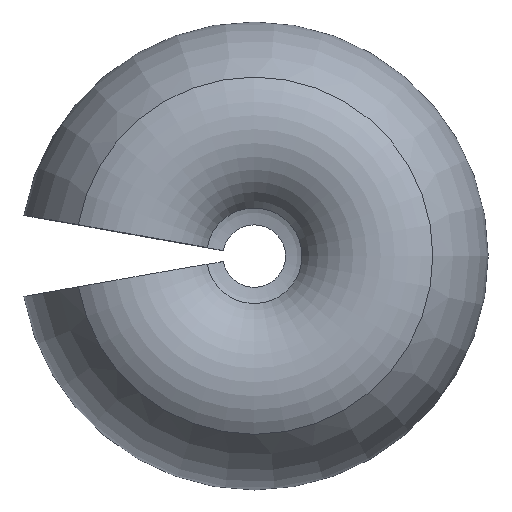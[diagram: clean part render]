
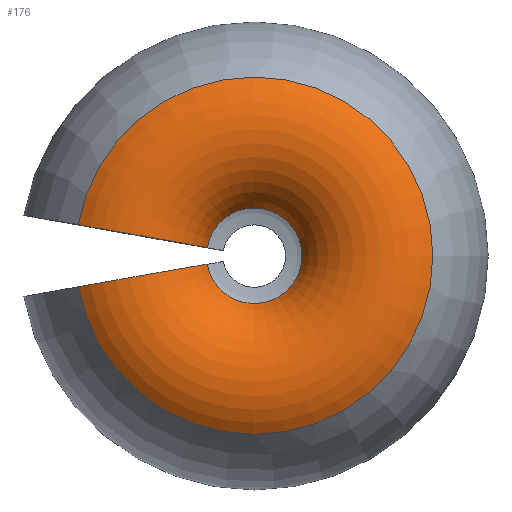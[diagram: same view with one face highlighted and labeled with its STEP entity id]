
A CAD part, top view. The second image highlights one B-rep face of the part: STEP entity #176.
In plain terms, the highlighted toroidal (fillet/blend) face has major radius 1892.75 mm and minor radius 1295 mm.
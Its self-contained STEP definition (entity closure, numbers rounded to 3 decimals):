
#1 = AXIS2_PLACEMENT_3D ( 'NONE', #190, #207, #4 ) ;
#4 = DIRECTION ( 'NONE',  ( -1., 0., 0. ) ) ;
#5 = AXIS2_PLACEMENT_3D ( 'NONE', #64, #231, #105 ) ;
#16 = ORIENTED_EDGE ( 'NONE', *, *, #171, .F. ) ;
#22 = FACE_OUTER_BOUND ( 'NONE', #40, .T. ) ;
#34 = EDGE_CURVE ( 'NONE', #157, #73, #139, .T. ) ;
#37 = VERTEX_POINT ( 'NONE', #212 ) ;
#40 = EDGE_LOOP ( 'NONE', ( #76, #41, #163, #16 ) ) ;
#41 = ORIENTED_EDGE ( 'NONE', *, *, #121, .T. ) ;
#48 = CARTESIAN_POINT ( 'NONE',  ( -2649.165, 467.119, 3088.532 ) ) ;
#49 = DIRECTION ( 'NONE',  ( -1., 0., 0. ) ) ;
#64 = CARTESIAN_POINT ( 'NONE',  ( -1863.996, -328.673, 2068.058 ) ) ;
#65 = CARTESIAN_POINT ( 'NONE',  ( -708.157, -124.867, 2615.347 ) ) ;
#69 = CIRCLE ( 'NONE', #1, 2690.033 ) ;
#73 = VERTEX_POINT ( 'NONE', #65 ) ;
#76 = ORIENTED_EDGE ( 'NONE', *, *, #239, .T. ) ;
#96 = TOROIDAL_SURFACE ( 'NONE', #151, 1892.751, 1295. ) ;
#105 = DIRECTION ( 'NONE',  ( 0., 0., 1. ) ) ;
#121 = EDGE_CURVE ( 'NONE', #37, #73, #187, .T. ) ;
#134 = VERTEX_POINT ( 'NONE', #48 ) ;
#139 = CIRCLE ( 'NONE', #5, 1295. ) ;
#145 = DIRECTION ( 'NONE',  ( 0., 0., -1. ) ) ;
#151 = AXIS2_PLACEMENT_3D ( 'NONE', #209, #145, #49 ) ;
#152 = CARTESIAN_POINT ( 'NONE',  ( -1863.996, 328.673, 2068.058 ) ) ;
#153 = DIRECTION ( 'NONE',  ( 0., 0., 1. ) ) ;
#157 = VERTEX_POINT ( 'NONE', #167 ) ;
#163 = ORIENTED_EDGE ( 'NONE', *, *, #34, .F. ) ;
#165 = DIRECTION ( 'NONE',  ( -1., 0., 0. ) ) ;
#167 = CARTESIAN_POINT ( 'NONE',  ( -2649.165, -467.119, 3088.532 ) ) ;
#171 = EDGE_CURVE ( 'NONE', #134, #157, #69, .T. ) ;
#176 = ADVANCED_FACE ( 'NONE', ( #22 ), #96, .T. ) ;
#187 = CIRCLE ( 'NONE', #234, 719.082 ) ;
#190 = CARTESIAN_POINT ( 'NONE',  ( 0., 0., 3088.532 ) ) ;
#193 = AXIS2_PLACEMENT_3D ( 'NONE', #152, #264, #153 ) ;
#205 = CARTESIAN_POINT ( 'NONE',  ( 0., 0., 2615.347 ) ) ;
#207 = DIRECTION ( 'NONE',  ( 0., 0., -1. ) ) ;
#209 = CARTESIAN_POINT ( 'NONE',  ( 0., 0., 2068.058 ) ) ;
#211 = DIRECTION ( 'NONE',  ( 0., 0., -1. ) ) ;
#212 = CARTESIAN_POINT ( 'NONE',  ( -708.157, 124.867, 2615.347 ) ) ;
#230 = CIRCLE ( 'NONE', #193, 1295. ) ;
#231 = DIRECTION ( 'NONE',  ( -0.174, 0.985, 0. ) ) ;
#234 = AXIS2_PLACEMENT_3D ( 'NONE', #205, #211, #165 ) ;
#239 = EDGE_CURVE ( 'NONE', #134, #37, #230, .T. ) ;
#264 = DIRECTION ( 'NONE',  ( 0.174, 0.985, 0. ) ) ;
